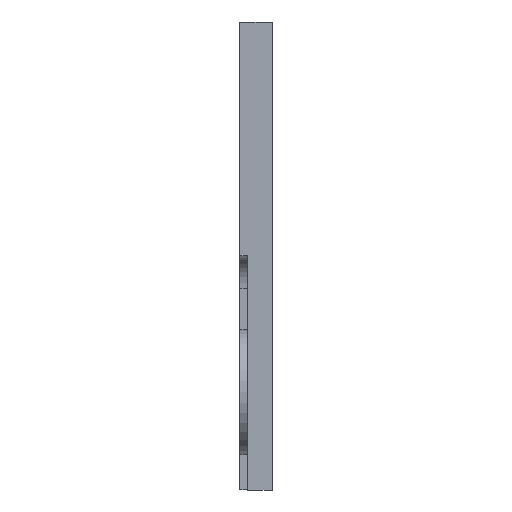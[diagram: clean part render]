
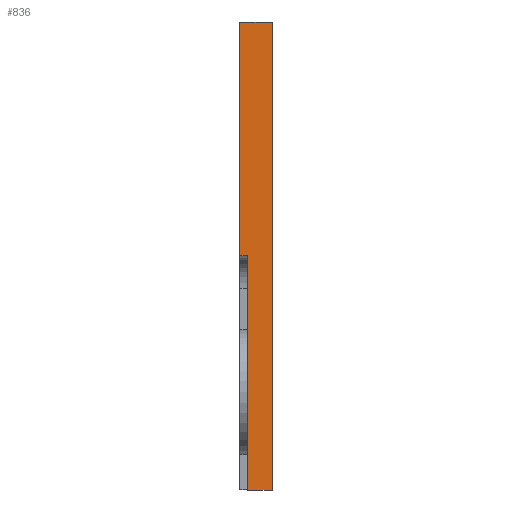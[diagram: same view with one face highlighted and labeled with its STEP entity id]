
A CAD part, left-side view. The second image highlights one B-rep face of the part: STEP entity #836.
In plain terms, the highlighted planar face has unit normal (-1, 0, 0).
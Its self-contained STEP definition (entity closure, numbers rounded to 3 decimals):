
#122=ORIENTED_EDGE('',*,*,#356,.T.);
#123=ORIENTED_EDGE('',*,*,#357,.F.);
#124=ORIENTED_EDGE('',*,*,#358,.F.);
#125=ORIENTED_EDGE('',*,*,#359,.T.);
#126=ORIENTED_EDGE('',*,*,#360,.T.);
#127=ORIENTED_EDGE('',*,*,#361,.F.);
#356=EDGE_CURVE('',#473,#474,#557,.T.);
#357=EDGE_CURVE('',#475,#474,#558,.T.);
#358=EDGE_CURVE('',#476,#475,#559,.T.);
#359=EDGE_CURVE('',#476,#477,#560,.T.);
#360=EDGE_CURVE('',#477,#478,#561,.T.);
#361=EDGE_CURVE('',#473,#478,#562,.T.);
#473=VERTEX_POINT('',#1299);
#474=VERTEX_POINT('',#1300);
#475=VERTEX_POINT('',#1302);
#476=VERTEX_POINT('',#1304);
#477=VERTEX_POINT('',#1306);
#478=VERTEX_POINT('',#1308);
#557=LINE('',#1298,#610);
#558=LINE('',#1301,#611);
#559=LINE('',#1303,#612);
#560=LINE('',#1305,#613);
#561=LINE('',#1307,#614);
#562=LINE('',#1309,#615);
#610=VECTOR('',#1018,1000.);
#611=VECTOR('',#1019,1000.);
#612=VECTOR('',#1020,1000.);
#613=VECTOR('',#1021,1000.);
#614=VECTOR('',#1022,1000.);
#615=VECTOR('',#1023,1000.);
#660=EDGE_LOOP('',(#122,#123,#124,#125,#126,#127));
#741=FACE_BOUND('',#660,.T.);
#822=PLANE('',#897);
#836=ADVANCED_FACE('',(#741),#822,.F.);
#897=AXIS2_PLACEMENT_3D('',#1297,#1016,#1017);
#1016=DIRECTION('',(1.,0.,0.));
#1017=DIRECTION('',(0.,0.,-1.));
#1018=DIRECTION('',(0.,0.,-1.));
#1019=DIRECTION('',(0.,1.,0.));
#1020=DIRECTION('',(0.,0.,-1.));
#1021=DIRECTION('',(0.,1.,0.));
#1022=DIRECTION('',(0.,0.,-1.));
#1023=DIRECTION('',(0.,1.,0.));
#1297=CARTESIAN_POINT('',(-1.27,-3.175,45.72));
#1298=CARTESIAN_POINT('',(-1.27,-0.762,45.72));
#1299=CARTESIAN_POINT('',(-1.27,-0.762,22.86));
#1300=CARTESIAN_POINT('',(-1.27,-0.762,-0.011));
#1301=CARTESIAN_POINT('',(-1.27,-3.175,-0.011));
#1302=CARTESIAN_POINT('',(-1.27,-3.175,-0.011));
#1303=CARTESIAN_POINT('',(-1.27,-3.175,45.72));
#1304=CARTESIAN_POINT('',(-1.27,-3.175,45.72));
#1305=CARTESIAN_POINT('',(-1.27,-3.175,45.72));
#1306=CARTESIAN_POINT('',(-1.27,0.,45.72));
#1307=CARTESIAN_POINT('',(-1.27,0.,45.72));
#1308=CARTESIAN_POINT('',(-1.27,0.,22.86));
#1309=CARTESIAN_POINT('',(-1.27,-3.175,22.86));
